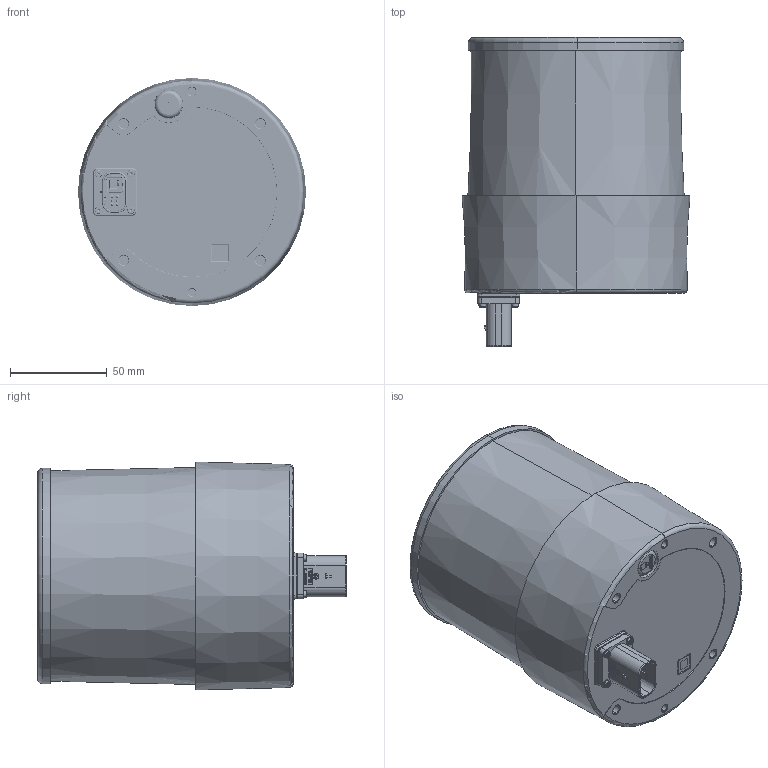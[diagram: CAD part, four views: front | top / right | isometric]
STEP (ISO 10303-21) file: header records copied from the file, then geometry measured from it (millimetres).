
FILE_DESCRIPTION (( 'STEP AP214' ), '1' );
FILE_NAME ('OT128-±êÆ·-B3-Íâ¹Û.STEP', '2023-08-02T08:37:16', ( 'hesai' ), ( '' ), 'SwSTEP 2.0', 'SolidWorks 2019', '' );
FILE_SCHEMA (( 'AUTOMOTIVE_DESIGN' ));
Length unit declared in the file: millimetre
Products named in the file (7): OT128-梓こ-B3-俋夤; 24000016301-OT-菁釱-TE; TE啣傷; 20100037-滅阨芵ァ概; 23000018401-OT-嫖欶B3; 27100007801-耐落内梅花低圆柱头螺钉M2x8; 22000026901-OT-挳嫖階裔
Assembly tree (9 placements, depth 2):
  OT128-梓こ-B3-俋夤
    24000016301-OT-菁釱-TE
    20100037-滅阨芵ァ概
    23000018401-OT-嫖欶B3
    22000026901-OT-挳嫖階裔
    TE啣傷
    27100007801-耐落内梅花低圆柱头螺钉M2x8  x4
Bounding box: 118 x 159.85 x 118 mm (x, y, z)
Volume: 86145.9 mm3; surface area: 165904.8 mm2
Topology: 8 solids, 9 shells, 6059 faces, 16025 edges, 10236 vertices
Faces by surface type: plane 3314, cylinder 1081, bspline 783, torus 523, cone 328, sphere 30
Entity records: 252984 total; most frequent: CARTESIAN_POINT 83511, ORIENTED_EDGE 30320, DIRECTION 24269, EDGE_CURVE 15160, VERTEX_POINT 9721, VECTOR 8107, LINE 8107, AXIS2_PLACEMENT_3D 8081
